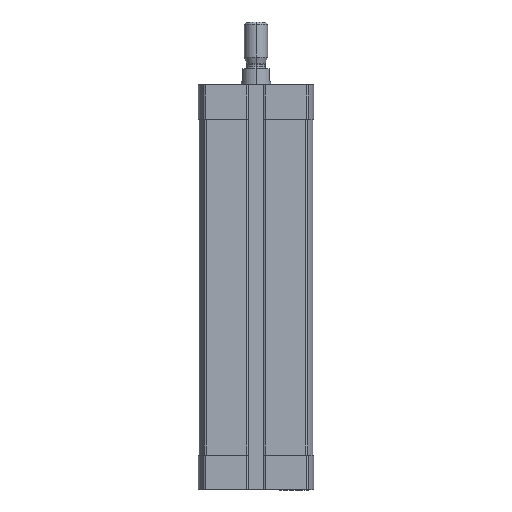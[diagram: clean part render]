
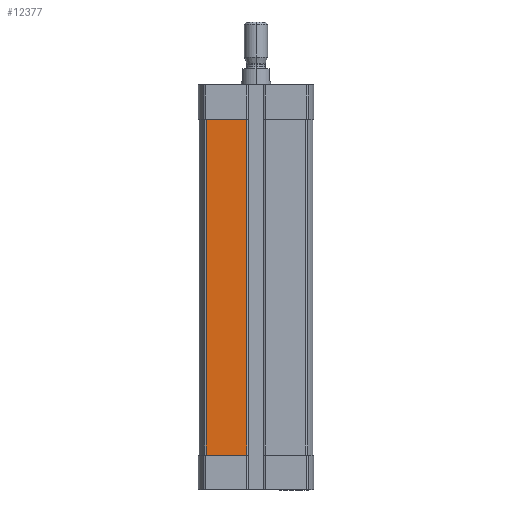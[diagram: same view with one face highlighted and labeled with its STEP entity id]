
A CAD part, left-side view. The second image highlights one B-rep face of the part: STEP entity #12377.
In plain terms, the highlighted planar face has unit normal (-1, 0, 0).
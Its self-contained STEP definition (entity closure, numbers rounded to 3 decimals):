
#154 = VERTEX_POINT ( 'NONE', #8627 ) ;
#387 = VECTOR ( 'NONE', #1167, 1000. ) ;
#796 = CARTESIAN_POINT ( 'NONE',  ( -19.5, 3.1, -127. ) ) ;
#837 = DIRECTION ( 'NONE',  ( 0., 0., 1. ) ) ;
#876 = VECTOR ( 'NONE', #7596, 1000. ) ;
#1167 = DIRECTION ( 'NONE',  ( 0., 0., -1. ) ) ;
#1857 = ORIENTED_EDGE ( 'NONE', *, *, #2279, .T. ) ;
#1971 = ORIENTED_EDGE ( 'NONE', *, *, #12360, .T. ) ;
#2279 = EDGE_CURVE ( 'NONE', #9206, #154, #10950, .T. ) ;
#2479 = EDGE_CURVE ( 'NONE', #6247, #9206, #12353, .T. ) ;
#3282 = VECTOR ( 'NONE', #5834, 1000. ) ;
#3483 = CARTESIAN_POINT ( 'NONE',  ( -19.5, 17.091, -12. ) ) ;
#3783 = CARTESIAN_POINT ( 'NONE',  ( -19.5, 17.091, -127. ) ) ;
#4396 = VERTEX_POINT ( 'NONE', #11489 ) ;
#4457 = AXIS2_PLACEMENT_3D ( 'NONE', #13018, #6928, #837 ) ;
#5834 = DIRECTION ( 'NONE',  ( 0., -1., 0. ) ) ;
#5912 = PLANE ( 'NONE',  #4457 ) ;
#6187 = ORIENTED_EDGE ( 'NONE', *, *, #2479, .T. ) ;
#6247 = VERTEX_POINT ( 'NONE', #12938 ) ;
#6928 = DIRECTION ( 'NONE',  ( -1., 0., 0. ) ) ;
#7298 = ORIENTED_EDGE ( 'NONE', *, *, #7986, .T. ) ;
#7547 = FACE_OUTER_BOUND ( 'NONE', #10285, .T. ) ;
#7596 = DIRECTION ( 'NONE',  ( 0., 1., 0. ) ) ;
#7986 = EDGE_CURVE ( 'NONE', #154, #4396, #8409, .T. ) ;
#8409 = LINE ( 'NONE', #12932, #3282 ) ;
#8627 = CARTESIAN_POINT ( 'NONE',  ( -19.5, 17.091, -127. ) ) ;
#9206 = VERTEX_POINT ( 'NONE', #3483 ) ;
#9435 = CARTESIAN_POINT ( 'NONE',  ( -19.5, 0., -12. ) ) ;
#10024 = DIRECTION ( 'NONE',  ( 0., 0., 1. ) ) ;
#10285 = EDGE_LOOP ( 'NONE', ( #7298, #1971, #6187, #1857 ) ) ;
#10329 = LINE ( 'NONE', #796, #12638 ) ;
#10950 = LINE ( 'NONE', #3783, #387 ) ;
#11489 = CARTESIAN_POINT ( 'NONE',  ( -19.5, 3.1, -127. ) ) ;
#12353 = LINE ( 'NONE', #9435, #876 ) ;
#12360 = EDGE_CURVE ( 'NONE', #4396, #6247, #10329, .T. ) ;
#12377 = ADVANCED_FACE ( 'NONE', ( #7547 ), #5912, .T. ) ;
#12638 = VECTOR ( 'NONE', #10024, 1000. ) ;
#12932 = CARTESIAN_POINT ( 'NONE',  ( -19.5, 17.091, -127. ) ) ;
#12938 = CARTESIAN_POINT ( 'NONE',  ( -19.5, 3.1, -12. ) ) ;
#13018 = CARTESIAN_POINT ( 'NONE',  ( -19.5, 17.091, -127. ) ) ;
